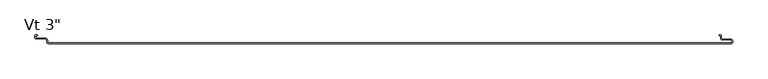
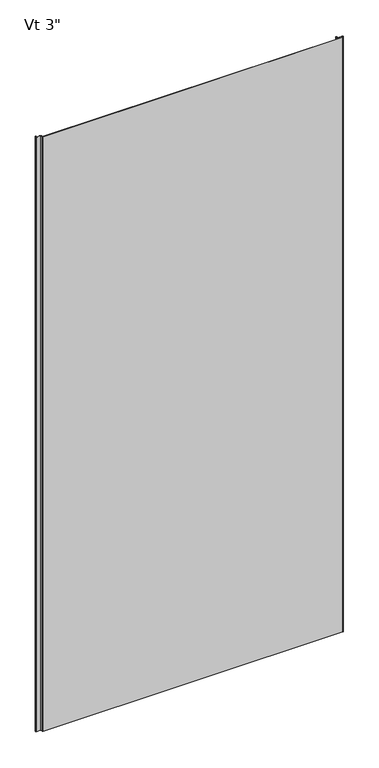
"""IFC4 building model written with IfcOpenShell, lengths in millimetres: plate geometry."""

from ifc_helpers import new_model, si_unit, frame, origin, place, context, project, spatial, polyline, circle_curve, source, transform, mapped, element, save
from ifc_brep_helpers import plane_surface, cylinder_surface, revolved_surface, advanced_brep


def plate_2ca165b3(model_context):
    return source(origin(), model_context, "Body", "AdvancedBrep", [
        advanced_brep(
        [(-572.4123937, -73.2223811, 2400.0), (-572.4123937, -70.9308685, 2400.0), (-576.3897391, -66.9535232, 2400.0), (-591.9862514, -66.9535232, 2400.0), (-592.5741086, -66.365666, 2400.0), (-592.5741086, -63.2941346, 2400.0), (-591.9862374, -62.7062635, 2400.0), (-589.6312064, -62.7062635, 2400.0), (-589.6312064, -61.7062599, 2400.0), (-591.9862419, -61.7062599, 2400.0), (-593.5741185, -63.2941364, 2400.0), (-593.5741185, -66.3656851, 2400.0), (-591.9862419, -67.9535616, 2400.0), (-576.3898159, -67.9535616, 2400.0), (-573.4125474, -70.9308302, 2400.0), (-573.4125474, -73.222714, 2400.0), (-570.4352789, -76.1999825, 2400.0), (574.5475652, -76.2, 2400.0), (577.5248337, -73.2227315, 2400.0), (577.5248337, -72.1806329, 2400.0), (574.5475652, -69.2033644, 2400.0), (560.3591801, -69.2033644, 2400.0), (558.7713036, -67.6154878, 2400.0), (558.7713036, -63.2950697, 2400.0), (557.1304042, -61.7066023, 2400.0), (554.7857432, -61.7066023, 2400.0), (554.7857432, -62.7060472, 2400.0), (557.1628599, -62.7060472, 2400.0), (557.7713971, -63.2950842, 2400.0), (557.7713971, -67.6153166, 2400.0), (560.3590971, -70.2030166, 2400.0), (574.5482568, -70.2030166, 2400.0), (576.5262182, -72.180978, 2400.0), (576.5262182, -73.22341, 2400.0), (574.550337, -75.1992912, 2400.0), (-570.4354837, -75.1992912, 2400.0), (-572.4123937, -73.2223811, 0.0), (-570.4354837, -75.1992912, 0.0), (574.550337, -75.1992912, 0.0), (576.5262182, -73.22341, 0.0), (576.5262182, -72.180978, 0.0), (574.5482568, -70.2030166, 0.0), (560.3590971, -70.2030166, 0.0), (557.7713971, -67.6153166, 0.0), (557.7713971, -63.2950842, 0.0), (557.1628599, -62.7060472, 0.0), (554.7857432, -62.7060472, 0.0), (554.7857432, -61.7066023, 0.0), (557.1304042, -61.7066023, 0.0), (558.7713036, -63.2950697, 0.0), (558.7713036, -67.6154878, 0.0), (560.3591801, -69.2033644, 0.0), (574.5475652, -69.2033644, 0.0), (577.5248337, -72.1806329, 0.0), (577.5248337, -73.2227315, 0.0), (574.5475652, -76.2, 0.0), (-570.4352789, -76.2, 0.0), (-573.4125474, -73.222714, 0.0), (-573.4125474, -70.9308302, 0.0), (-576.3898159, -67.9535616, 0.0), (-591.9862419, -67.9535616, 0.0), (-593.5741185, -66.3656851, 0.0), (-593.5741185, -63.2941364, 0.0), (-591.9862419, -61.7062599, 0.0), (-589.6312064, -61.7062599, 0.0), (-589.6312064, -62.7062635, 0.0), (-591.9862374, -62.7062635, 0.0), (-592.5741086, -63.2941346, 0.0), (-592.5741086, -66.365666, 0.0), (-591.9862514, -66.9535232, 0.0), (-576.3897391, -66.9535232, 0.0), (-572.4123937, -70.9308685, 0.0)],
        [
            (0, 1),
            (1, 2, circle_curve(frame((-576.3897391, -70.9308685, 2400.0), z_axis=(0.0, 0.0, 1.0), x_axis=(-1.0, 0.0, 0.0)), 3.9773454)),
            (2, 3),
            (3, 4, circle_curve(frame((-591.9862514, -66.365666, 2400.0), z_axis=(0.0, 0.0, -1.0), x_axis=(-1.0, 0.0, 0.0)), 0.5878572)),
            (4, 5),
            (5, 6, circle_curve(frame((-591.9862374, -63.2941346, 2400.0), z_axis=(0.0, 0.0, -1.0), x_axis=(-1.0, 0.0, 0.0)), 0.5878711)),
            (6, 7),
            (7, 8),
            (8, 9),
            (9, 10, circle_curve(frame((-591.9862419, -63.2941364, 2400.0), z_axis=(0.0, 0.0, 1.0), x_axis=(-1.0, 0.0, 0.0)), 1.5878765)),
            (10, 11),
            (11, 12, circle_curve(frame((-591.9862419, -66.3656851, 2400.0), z_axis=(0.0, 0.0, 1.0), x_axis=(-1.0, 0.0, 0.0)), 1.5878765)),
            (12, 13),
            (13, 14, circle_curve(frame((-576.3898159, -70.9308302, 2400.0), z_axis=(0.0, 0.0, -1.0), x_axis=(-1.0, 0.0, 0.0)), 2.9772685)),
            (14, 15),
            (15, 16, circle_curve(frame((-570.4352789, -73.222714, 2400.0), z_axis=(0.0, 0.0, 1.0), x_axis=(-1.0, 0.0, 0.0)), 2.9772685)),
            (16, 17),
            (17, 18, circle_curve(frame((574.5475652, -73.2227315, 2400.0), z_axis=(0.0, 0.0, 1.0), x_axis=(-1.0, 0.0, 0.0)), 2.9772685)),
            (18, 19),
            (19, 20, circle_curve(frame((574.5475652, -72.1806329, 2400.0), z_axis=(0.0, 0.0, 1.0), x_axis=(-1.0, 0.0, 0.0)), 2.9772685)),
            (20, 21),
            (21, 22, circle_curve(frame((560.3591801, -67.6154878, 2400.0), z_axis=(0.0, 0.0, -1.0), x_axis=(-1.0, 0.0, 0.0)), 1.5878765)),
            (22, 23),
            (23, 24, circle_curve(frame((557.1819985, -63.2950697, 2400.0), z_axis=(0.0, 0.0, 1.0), x_axis=(-1.0, 0.0, 0.0)), 1.5893051)),
            (24, 25),
            (25, 26),
            (26, 27),
            (27, 28, circle_curve(frame((557.1820477, -63.2950842, 2400.0), z_axis=(0.0, 0.0, -1.0), x_axis=(-1.0, 0.0, 0.0)), 0.5893495)),
            (28, 29),
            (29, 30, circle_curve(frame((560.3590971, -67.6153166, 2400.0), z_axis=(0.0, 0.0, 1.0), x_axis=(-1.0, 0.0, 0.0)), 2.5877)),
            (30, 31),
            (31, 32, circle_curve(frame((574.5482568, -72.180978, 2400.0), z_axis=(0.0, 0.0, -1.0), x_axis=(-1.0, 0.0, 0.0)), 1.9779614)),
            (32, 33),
            (33, 34, circle_curve(frame((574.550337, -73.22341, 2400.0), z_axis=(0.0, 0.0, -1.0), x_axis=(-1.0, 0.0, 0.0)), 1.9758812)),
            (34, 35),
            (35, 0, circle_curve(frame((-570.4354837, -73.2223811, 2400.0), z_axis=(0.0, 0.0, -1.0), x_axis=(-1.0, 0.0, 0.0)), 1.9769101)),
            (36, 37, circle_curve(frame((-570.4354837, -73.2223811, 0.0), z_axis=(0.0, 0.0, 1.0), x_axis=(-1.0, 0.0, 0.0)), 1.9769101)),
            (37, 38),
            (38, 39, circle_curve(frame((574.550337, -73.22341, 0.0), z_axis=(0.0, 0.0, 1.0), x_axis=(-1.0, 0.0, 0.0)), 1.9758812)),
            (39, 40),
            (40, 41, circle_curve(frame((574.5482568, -72.180978, 0.0), z_axis=(0.0, 0.0, 1.0), x_axis=(-1.0, 0.0, 0.0)), 1.9779614)),
            (41, 42),
            (42, 43, circle_curve(frame((560.3590971, -67.6153166, 0.0), z_axis=(0.0, 0.0, -1.0), x_axis=(-1.0, 0.0, 0.0)), 2.5877)),
            (43, 44),
            (44, 45, circle_curve(frame((557.1820477, -63.2950842, 0.0), z_axis=(0.0, 0.0, 1.0), x_axis=(-1.0, 0.0, 0.0)), 0.5893495)),
            (45, 46),
            (46, 47),
            (47, 48),
            (48, 49, circle_curve(frame((557.1819985, -63.2950697, 0.0), z_axis=(0.0, 0.0, -1.0), x_axis=(-1.0, 0.0, 0.0)), 1.5893051)),
            (49, 50),
            (50, 51, circle_curve(frame((560.3591801, -67.6154878, 0.0), z_axis=(0.0, 0.0, 1.0), x_axis=(-1.0, 0.0, 0.0)), 1.5878765)),
            (51, 52),
            (52, 53, circle_curve(frame((574.5475652, -72.1806329, 0.0), z_axis=(0.0, 0.0, -1.0), x_axis=(-1.0, 0.0, 0.0)), 2.9772685)),
            (53, 54),
            (54, 55, circle_curve(frame((574.5475652, -73.2227315, 0.0), z_axis=(0.0, 0.0, -1.0), x_axis=(-1.0, 0.0, 0.0)), 2.9772685)),
            (55, 56),
            (56, 57, circle_curve(frame((-570.4352789, -73.222714, 0.0), z_axis=(0.0, 0.0, -1.0), x_axis=(-1.0, 0.0, 0.0)), 2.9772685)),
            (57, 58),
            (58, 59, circle_curve(frame((-576.3898159, -70.9308302, 0.0), z_axis=(0.0, 0.0, 1.0), x_axis=(-1.0, 0.0, 0.0)), 2.9772685)),
            (59, 60),
            (60, 61, circle_curve(frame((-591.9862419, -66.3656851, 0.0), z_axis=(0.0, 0.0, -1.0), x_axis=(-1.0, 0.0, 0.0)), 1.5878765)),
            (61, 62),
            (62, 63, circle_curve(frame((-591.9862419, -63.2941364, 0.0), z_axis=(0.0, 0.0, -1.0), x_axis=(-1.0, 0.0, 0.0)), 1.5878765)),
            (63, 64),
            (64, 65),
            (65, 66),
            (66, 67, circle_curve(frame((-591.9862374, -63.2941346, 0.0), z_axis=(0.0, 0.0, 1.0), x_axis=(-1.0, 0.0, 0.0)), 0.5878711)),
            (67, 68),
            (68, 69, circle_curve(frame((-591.9862514, -66.365666, 0.0), z_axis=(0.0, 0.0, 1.0), x_axis=(-1.0, 0.0, 0.0)), 0.5878572)),
            (69, 70),
            (70, 71, circle_curve(frame((-576.3897391, -70.9308685, 0.0), z_axis=(0.0, 0.0, -1.0), x_axis=(-1.0, 0.0, 0.0)), 3.9773454)),
            (71, 36),
            (23, 49),
            (48, 24),
            (22, 50),
            (21, 51),
            (20, 52),
            (19, 53),
            (17, 55),
            (54, 18),
            (32, 40),
            (39, 33),
            (38, 34),
            (16, 56),
            (37, 35),
            (36, 0),
            (71, 1),
            (70, 2),
            (69, 3),
            (4, 68),
            (67, 5),
            (66, 6),
            (65, 7),
            (64, 8),
            (63, 9),
            (62, 10),
            (61, 11),
            (60, 12),
            (59, 13),
            (58, 14),
            (57, 15),
            (31, 41),
            (30, 42),
            (29, 43),
            (28, 44),
            (27, 45),
            (26, 46),
            (25, 47),
        ],
        [
            plane_surface(frame((0.0, -76.2, 2400.0), z_axis=(0.0, 0.0, 1.0), x_axis=(0.0, -1.0, 0.0))),
            plane_surface(frame((0.0, -76.2, 0.0), z_axis=(0.0, 0.0, -1.0), x_axis=(0.0, -1.0, 0.0))),
            cylinder_surface(frame((557.1819985, -63.2950697, 2400.0), z_axis=(0.0, 0.0, 1.0), x_axis=(-1.0, 0.0, 0.0)), 1.5893051),
            plane_surface(frame((558.7713036, -63.2950697, 2400.0), z_axis=(1.0, 0.0, 0.0), x_axis=(0.0, 0.0, -1.0))),
            revolved_surface(polyline([(558.7713036, -67.6154878, 0.0), (558.7713036, -67.6154878, 2400.0)]), (560.3591801, -67.6154878, 2400.0), (0.0, 0.0, -1.0)),
            plane_surface(frame((560.3591801, -69.2033644, 2400.0), z_axis=(0.0, 1.0, 0.0), x_axis=(0.0, 0.0, -1.0))),
            cylinder_surface(frame((574.5475652, -72.1806329, 2400.0), z_axis=(0.0, 0.0, 1.0), x_axis=(-1.0, 0.0, 0.0)), 2.9772685),
            cylinder_surface(frame((574.5475652, -73.2227315, 2400.0), z_axis=(0.0, 0.0, 1.0), x_axis=(-1.0, 0.0, 0.0)), 2.9772685),
            plane_surface(frame((576.5262182, -73.22341, 2400.0), z_axis=(-1.0, 0.0, 0.0), x_axis=(0.0, 0.0, -1.0))),
            plane_surface(frame((577.5248337, -72.1806329, 2400.0), z_axis=(1.0, 0.0, 0.0), x_axis=(0.0, 0.0, -1.0))),
            revolved_surface(polyline([(572.5744558, -73.22341, 0.0), (572.5744558, -73.22341, 2400.0)]), (574.550337, -73.22341, 2400.0), (0.0, 0.0, -1.0)),
            plane_surface(frame((574.5475652, -76.2, 2400.0), z_axis=(0.0, -1.0, 0.0), x_axis=(0.0, 0.0, -1.0))),
            plane_surface(frame((-570.4354837, -75.1992912, 2400.0), z_axis=(0.0, 1.0, 0.0), x_axis=(0.0, 0.0, -1.0))),
            revolved_surface(polyline([(-572.4123938, -73.2223811, 0.0), (-572.4123938, -73.2223811, 2400.0)]), (-570.4354837, -73.2223811, 2400.0), (0.0, 0.0, -1.0)),
            plane_surface(frame((-572.4123937, -70.9308685, 2400.0), z_axis=(1.0, 0.0, 0.0), x_axis=(0.0, 0.0, -1.0))),
            cylinder_surface(frame((-576.3897391, -70.9308685, 2400.0), z_axis=(0.0, 0.0, 1.0), x_axis=(-1.0, 0.0, 0.0)), 3.9773454),
            plane_surface(frame((-591.9862514, -66.9535232, 2400.0), z_axis=(0.0, 1.0, 0.0), x_axis=(0.0, 0.0, -1.0))),
            plane_surface(frame((-592.5741086, -63.2941346, 2400.0), z_axis=(1.0, 0.0, 0.0), x_axis=(0.0, 0.0, -1.0))),
            revolved_surface(polyline([(-592.5741085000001, -63.2941346, 0.0), (-592.5741085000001, -63.2941346, 2400.0)]), (-591.9862374, -63.2941346, 2400.0), (0.0, 0.0, -1.0)),
            plane_surface(frame((-589.6312064, -62.7062635, 2400.0), z_axis=(0.0, -1.0, 0.0), x_axis=(0.0, 0.0, -1.0))),
            plane_surface(frame((-589.6312064, -61.7062599, 2400.0), z_axis=(1.0, 0.0, 0.0), x_axis=(0.0, 0.0, -1.0))),
            plane_surface(frame((-591.9862419, -61.7062599, 2400.0), z_axis=(0.0, 1.0, 0.0), x_axis=(0.0, 0.0, -1.0))),
            cylinder_surface(frame((-591.9862419, -63.2941364, 2400.0), z_axis=(0.0, 0.0, 1.0), x_axis=(-1.0, 0.0, 0.0)), 1.5878765),
            plane_surface(frame((-593.5741185, -66.3656851, 2400.0), z_axis=(-1.0, 0.0, 0.0), x_axis=(0.0, 0.0, -1.0))),
            cylinder_surface(frame((-591.9862419, -66.3656851, 2400.0), z_axis=(0.0, 0.0, 1.0), x_axis=(-1.0, 0.0, 0.0)), 1.5878765),
            plane_surface(frame((-576.3898159, -67.9535616, 2400.0), z_axis=(0.0, -1.0, 0.0), x_axis=(0.0, 0.0, -1.0))),
            revolved_surface(polyline([(-579.3670844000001, -70.9308302, 0.0), (-579.3670844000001, -70.9308302, 2400.0)]), (-576.3898159, -70.9308302, 2400.0), (0.0, 0.0, -1.0)),
            plane_surface(frame((-573.4125474, -73.222714, 2400.0), z_axis=(-1.0, 0.0, 0.0), x_axis=(0.0, 0.0, -1.0))),
            cylinder_surface(frame((-570.4352789, -73.222714, 2400.0), z_axis=(0.0, 0.0, 1.0), x_axis=(-1.0, 0.0, 0.0)), 2.9772685),
            revolved_surface(polyline([(-592.5741086, -66.365666, 0.0), (-592.5741086, -66.365666, 2400.0)]), (-591.9862514, -66.365666, 2400.0), (0.0, 0.0, -1.0)),
            revolved_surface(polyline([(572.5702954, -72.180978, 0.0), (572.5702954, -72.180978, 2400.0)]), (574.5482568, -72.180978, 2400.0), (0.0, 0.0, -1.0)),
            plane_surface(frame((574.5482568, -70.2030166, 2400.0), z_axis=(0.0, -1.0, 0.0), x_axis=(0.0, 0.0, -1.0))),
            cylinder_surface(frame((560.3590971, -67.6153166, 2400.0), z_axis=(0.0, 0.0, 1.0), x_axis=(-1.0, 0.0, 0.0)), 2.5877),
            plane_surface(frame((557.7713971, -67.6153166, 2400.0), z_axis=(-1.0, 0.0, 0.0), x_axis=(0.0, 0.0, -1.0))),
            revolved_surface(polyline([(556.5926982, -63.2950842, 0.0), (556.5926982, -63.2950842, 2400.0)]), (557.1820477, -63.2950842, 2400.0), (0.0, 0.0, -1.0)),
            plane_surface(frame((557.1628599, -62.7060472, 2400.0), z_axis=(0.0, -1.0, 0.0), x_axis=(0.0, 0.0, -1.0))),
            plane_surface(frame((554.7857432, -62.7060472, 2400.0), z_axis=(-1.0, 0.0, 0.0), x_axis=(0.0, 0.0, -1.0))),
            plane_surface(frame((554.7857432, -61.7066023, 2400.0), z_axis=(0.0, 1.0, 0.0), x_axis=(0.0, 0.0, -1.0))),
        ],
        [
            (0, [[1, 2, 3, 4, 5, 6, 7, 8, 9, 10, 11, 12, 13, 14, 15, 16, 17, 18, 19, 20, 21, 22, 23, 24, 25, 26, 27, 28, 29, 30, 31, 32, 33, 34, 35, 36]]),
            (1, [[37, 38, 39, 40, 41, 42, 43, 44, 45, 46, 47, 48, 49, 50, 51, 52, 53, 54, 55, 56, 57, 58, 59, 60, 61, 62, 63, 64, 65, 66, 67, 68, 69, 70, 71, 72]]),
            (2, [[73, -49, 74, -24]]),
            (3, [[75, -50, -73, -23]]),
            (4, [[76, -51, -75, -22]]),
            (5, [[77, -52, -76, -21]]),
            (6, [[78, -53, -77, -20]]),
            (7, [[79, -55, 80, -18]]),
            (8, [[81, -40, 82, -33]]),
            (9, [[-80, -54, -78, -19]]),
            (10, [[-82, -39, 83, -34]]),
            (11, [[84, -56, -79, -17]]),
            (12, [[-83, -38, 85, -35]]),
            (13, [[-85, -37, 86, -36]]),
            (14, [[-86, -72, 87, -1]]),
            (15, [[-87, -71, 88, -2]]),
            (16, [[-88, -70, 89, -3]]),
            (17, [[90, -68, 91, -5]]),
            (18, [[-91, -67, 92, -6]]),
            (19, [[-92, -66, 93, -7]]),
            (20, [[-93, -65, 94, -8]]),
            (21, [[-94, -64, 95, -9]]),
            (22, [[-95, -63, 96, -10]]),
            (23, [[-96, -62, 97, -11]]),
            (24, [[-97, -61, 98, -12]]),
            (25, [[-98, -60, 99, -13]]),
            (26, [[-99, -59, 100, -14]]),
            (27, [[-100, -58, 101, -15]]),
            (28, [[-101, -57, -84, -16]]),
            (29, [[-89, -69, -90, -4]]),
            (30, [[102, -41, -81, -32]]),
            (31, [[103, -42, -102, -31]]),
            (32, [[104, -43, -103, -30]]),
            (33, [[105, -44, -104, -29]]),
            (34, [[106, -45, -105, -28]]),
            (35, [[107, -46, -106, -27]]),
            (36, [[108, -47, -107, -26]]),
            (37, [[-74, -48, -108, -25]]),
        ],
    ),
    ])


if __name__ == "__main__":
    model = new_model("IFC4")
    model_context = context("Model", 3, world=origin())
    ifc_project = project(units=[si_unit("LENGTHUNIT", "METRE", prefix="MILLI")], contexts=[model_context])
    site = spatial("IfcSite", under=ifc_project)
    building = spatial("IfcBuilding", under=site)
    placement = place(None, origin())
    plate_shape = plate_2ca165b3(model_context)
    element("IfcPlate", 1, ObjectType="KIP-SLI-FLI-R19-CP-Vt-FL_SL : Vt 3\"", at=placement, inside=building, context=model_context, shape_type="MappedRepresentation", body=[
        mapped(plate_shape, transform((0.0, 0.0, 0.0), x_axis=(1.0, 0.0, 0.0), y_axis=(0.0, 1.0, 0.0), z_axis=(0.0, 0.0, 1.0))),
    ])
    save(model, "model.ifc")
